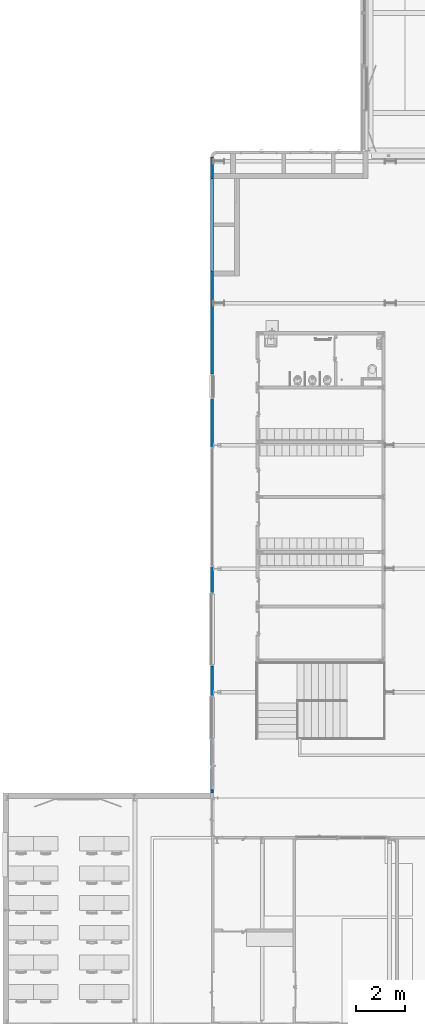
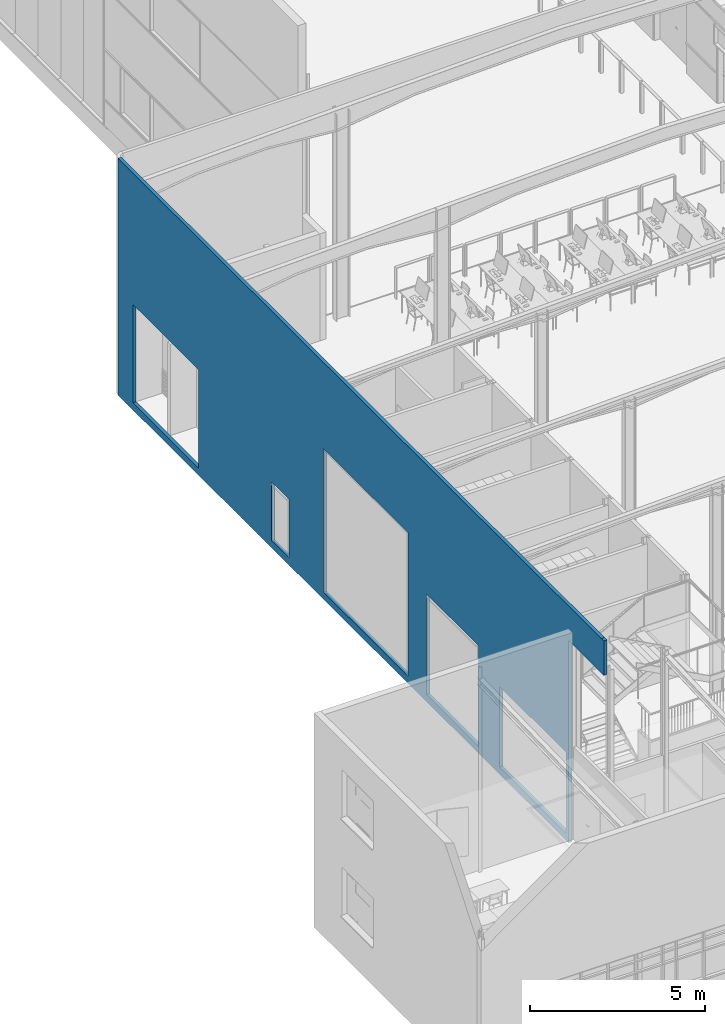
# One storey, part 90 of 137: 1 wall, 1 opening.
"""IFC2X3 building model written with IfcOpenShell, lengths in centimetres."""

import ifcopenshell
import ifcopenshell.guid

model = None  # the IFC model being written
_history = None  # IfcOwnerHistory: only IFC2X3 demands one
_inside = {}  # id of a spatial element -> (the spatial element, [elements in it])
_under = {}  # id of a project, library or spatial element -> (it, [spatial elements below it])
_declared = {}  # id of a project -> (the project, [libraries it declares])
_typed = {}  # id of a type object -> (the type object, [elements of that type])
_made_of = {}  # id of a material, layer set ... -> (it, [elements and type objects made of it])


def new_model(schema):
    """Start an empty IFC model of exactly this schema.

    Asked for "IFC4X3", IfcOpenShell would pick the latest addendum, in which some entities
    have other attributes; the version numbers below select the first issue.
    IFC2X3 requires an IfcOwnerHistory on every rooted entity: one is made here for all.
    """
    global model, _history
    if schema == "IFC4X3":
        model = ifcopenshell.file(schema_version=(4, 3, 0, 0))
    else:
        model = ifcopenshell.file(schema=schema)
    _inside.clear()
    _under.clear()
    _declared.clear()
    _typed.clear()
    _made_of.clear()
    _history = None
    if model.schema == "IFC2X3":
        org = make("IfcOrganization", Name="unknown")
        user = make(
            "IfcPersonAndOrganization",
            ThePerson=make("IfcPerson", FamilyName="unknown"),
            TheOrganization=org,
        )
        app = make(
            "IfcApplication",
            ApplicationDeveloper=org,
            Version="unknown",
            ApplicationFullName="unknown",
            ApplicationIdentifier="unknown",
        )
        _history = make(
            "IfcOwnerHistory",
            OwningUser=user,
            OwningApplication=app,
            ChangeAction="ADDED",
            CreationDate=0,
        )
    return model


def make(cls, **values):
    """One entity of the class cls with the attributes given. An attribute that is None is left unset."""
    return model.create_entity(
        cls, **{name: value for name, value in values.items() if value is not None}
    )


def entity(cls, *values):
    """Any entity or typed value of the class cls, its attributes in the order of the schema. None: left unset."""
    e = model.create_entity(cls)
    for i, value in enumerate(values):
        if value is not None:
            e[i] = value
    return e


def rooted(cls, **values):
    """An entity with a GlobalId (a new one), such as an element, a storey or a relation."""
    return make(cls, GlobalId=ifcopenshell.guid.new(), OwnerHistory=_history, **values)


def si_unit(unit_type, name, prefix=None):
    """IfcSIUnit, for example si_unit("LENGTHUNIT", "METRE", prefix="MILLI")."""
    return make("IfcSIUnit", UnitType=unit_type, Prefix=prefix, Name=name)


def converted_unit(unit_type, name, factor, base, dimensions=None, offset=None):
    """IfcConversionBasedUnit, such as the inch: factor (a typed value) times the base unit."""
    return make(
        "IfcConversionBasedUnit"
        if offset is None
        else "IfcConversionBasedUnitWithOffset",
        ConversionOffset=offset,
        Dimensions=None
        if dimensions is None
        else entity("IfcDimensionalExponents", *dimensions),
        UnitType=unit_type,
        Name=name,
        ConversionFactor=make(
            "IfcMeasureWithUnit", ValueComponent=factor, UnitComponent=base
        ),
    )


def derived_unit(unit_type, elements):
    """IfcDerivedUnit: a product of units, each with its exponent."""
    return make(
        "IfcDerivedUnit",
        Elements=[
            make("IfcDerivedUnitElement", Unit=unit, Exponent=power)
            for unit, power in elements
        ],
        UnitType=unit_type,
    )


def assignment(units):
    """IfcUnitAssignment: the units of a project."""
    return None if units is None else make("IfcUnitAssignment", Units=units)


def point(xyz):
    """IfcCartesianPoint."""
    return None if xyz is None else make("IfcCartesianPoint", Coordinates=xyz)


def direction(xyz):
    """IfcDirection."""
    return None if xyz is None else make("IfcDirection", DirectionRatios=xyz)


def frame(location, z_axis=None, x_axis=None):
    """IfcAxis2Placement3D, a coordinate frame: its origin and axes. An axis left out is left unset."""
    return make(
        "IfcAxis2Placement3D",
        Location=point(location),
        Axis=direction(z_axis),
        RefDirection=direction(x_axis),
    )


def frame_2d(location, x_axis=None):
    """IfcAxis2Placement2D, a coordinate frame in the plane: its origin and x axis."""
    return make(
        "IfcAxis2Placement2D", Location=point(location), RefDirection=direction(x_axis)
    )


def origin():
    """The frame at (0, 0, 0) with its axes left unset."""
    return frame((0.0, 0.0, 0.0))


def place(relative_to, where):
    """IfcLocalPlacement: puts the frame where relative to a parent placement (None: the world)."""
    return make(
        "IfcLocalPlacement", PlacementRelTo=relative_to, RelativePlacement=where
    )


def context(
    kind, dimensions, precision=None, world=None, true_north=None, identifier=None
):
    """IfcGeometricRepresentationContext, for example the 3D "Model" context."""
    return make(
        "IfcGeometricRepresentationContext",
        ContextIdentifier=identifier,
        ContextType=kind,
        CoordinateSpaceDimension=dimensions,
        Precision=precision,
        WorldCoordinateSystem=world,
        TrueNorth=true_north,
    )


def subcontext(parent, identifier, kind, view, scale=None):
    """IfcGeometricRepresentationSubContext, for example "Body" below "Model"."""
    return make(
        "IfcGeometricRepresentationSubContext",
        ContextIdentifier=identifier,
        ContextType=kind,
        ParentContext=parent,
        TargetScale=scale,
        TargetView=view,
    )


def project(units=None, contexts=None):
    """IfcProject with its units and contexts."""
    return rooted(
        "IfcProject",
        Name="project",
        RepresentationContexts=contexts,
        UnitsInContext=assignment(units),
    )


def spatial(cls, under=None, at=None, **own):
    """A site, building, storey or space (cls), placed at a placement, below another one or the project."""
    s = rooted(cls, ObjectPlacement=at, **own)
    if under is not None:
        _under.setdefault(under.id(), (under, []))[1].append(s)
    return s


def profile(cls, at=None, kind="AREA", **sizes):
    """A parametric profile (cls). Its sizes go by their IFC names, for example OverallWidth=200.0."""
    return make(cls, ProfileType=kind, Position=at, **sizes)


def rectangle(**sizes):
    """IfcRectangleProfileDef."""
    return profile("IfcRectangleProfileDef", **sizes)


def extrude(swept, where, along, depth):
    """IfcExtrudedAreaSolid: the profile swept, set in the frame where, extruded along a direction by depth."""
    return make(
        "IfcExtrudedAreaSolid",
        SweptArea=swept,
        Position=where,
        ExtrudedDirection=direction(along),
        Depth=depth,
    )


def faces_of(points, faces, orient=None, outer=None):
    """IfcFace entities. A face is a list of loops; a loop is a list of indices into points, from 0.

    orient and outer hold one flag for each loop. By default every Orientation is true, the
    first loop of a face is its IfcFaceOuterBound and the others are IfcFaceBound.
    """
    made = []
    for i, loops in enumerate(faces):
        bounds = []
        for j, loop in enumerate(loops):
            is_outer = j == 0 if outer is None else outer[i][j]
            bounds.append(
                make(
                    "IfcFaceOuterBound" if is_outer else "IfcFaceBound",
                    Bound=make("IfcPolyLoop", Polygon=[points[k] for k in loop]),
                    Orientation=True if orient is None else orient[i][j],
                )
            )
        made.append(make("IfcFace", Bounds=bounds))
    return made


def faceted_brep(points, faces, orient=None, outer=None, voids=None):
    """IfcFacetedBrep: a solid bounded by flat faces; with voids (closed shells), ...WithVoids."""
    shared = [point(p) for p in points]
    hull = make("IfcClosedShell", CfsFaces=faces_of(shared, faces, orient, outer))
    if voids is None:
        return make("IfcFacetedBrep", Outer=hull)
    return make(
        "IfcFacetedBrepWithVoids",
        Outer=hull,
        Voids=[
            make(cls, CfsFaces=faces_of(shared, fs, o, b)) for cls, fs, o, b in voids
        ],
    )


def shape(context_of_items, identifier, shape_type, items):
    """IfcShapeRepresentation: the items that make up one representation, for example the "Body"."""
    return make(
        "IfcShapeRepresentation",
        ContextOfItems=context_of_items,
        RepresentationIdentifier=identifier,
        RepresentationType=shape_type,
        Items=items,
    )


def material(Name=None, Category=None):
    """IfcMaterial."""
    return make("IfcMaterial", Name=Name, Category=Category)


def material_list(materials):
    """IfcMaterialList."""
    return make("IfcMaterialList", Materials=materials)


def made_of(thing, what):
    """Note that an element or type object is made of a material, layer set ...; save() writes the relation."""
    if what is not None:
        _made_of.setdefault(what.id(), (what, []))[1].append(thing)
    return thing


def type_object(cls, material=None, **own):
    """A type object (cls), such as IfcWallType, which elements share."""
    return made_of(rooted(cls, **own), material)


def element(
    cls,
    number,
    at=None,
    inside=None,
    cuts=None,
    type_object=None,
    material=None,
    context=None,
    identifier="Body",
    shape_type=None,
    held_by="IfcProductDefinitionShape",
    body=None,
    shapes=None,
    **own,
):
    """One element of the class cls, such as IfcWall. Its Tag is "e" and its number.

    at: its placement. inside: the storey or other place that contains it. cuts: it is an
    opening in that element (IfcRelVoidsElement). A single representation is given by context,
    identifier, shape_type and body (its items); several are given by shapes. held_by: the class
    of the entity that holds the representations. save() writes the other relations.
    """
    e = rooted(cls, Tag="e%d" % number, ObjectPlacement=at, **own)
    if body is not None:
        shapes = [shape(context, identifier, shape_type, body)]
    if shapes is not None:
        e.Representation = make(held_by, Representations=shapes)
    if inside is not None:
        _inside.setdefault(inside.id(), (inside, []))[1].append(e)
    if cuts is not None:
        rooted(
            "IfcRelVoidsElement", RelatingBuildingElement=cuts, RelatedOpeningElement=e
        )
    if type_object is not None:
        _typed.setdefault(type_object.id(), (type_object, []))[1].append(e)
    return made_of(e, material)


def aggregate(whole, parts):
    """IfcRelAggregates: a whole, such as a stair, and the parts it consists of."""
    return rooted("IfcRelAggregates", RelatingObject=whole, RelatedObjects=parts)


def save(model, path):
    """Write the relations noted so far, then the file.

    IfcRelAggregates (storeys below a building ...), IfcRelContainedInSpatialStructure (elements
    in a storey), IfcRelDefinesByType, IfcRelAssociatesMaterial and IfcRelDeclares: one each for
    every whole, place, type object, material and project.
    """
    for whole, parts in _under.values():
        aggregate(whole, parts)
    for where, things in _inside.values():
        rooted(
            "IfcRelContainedInSpatialStructure",
            RelatedElements=things,
            RelatingStructure=where,
        )
    for kind, things in _typed.values():
        rooted("IfcRelDefinesByType", RelatedObjects=things, RelatingType=kind)
    for what, things in _made_of.values():
        rooted("IfcRelAssociatesMaterial", RelatedObjects=things, RelatingMaterial=what)
    for by, libraries in _declared.values():
        rooted("IfcRelDeclares", RelatingContext=by, RelatedDefinitions=libraries)
    model.write(path)


model = new_model("IFC2X3")

# Units and contexts
model_context = context("Model", 3, precision=0.001, world=origin(), true_north=direction((6.12303176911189e-17, 1.0)))
body_context = subcontext(model_context, "Body", "Model", "MODEL_VIEW")
ifc_project = project(units=[si_unit("LENGTHUNIT", "METRE", prefix="CENTI"), si_unit("AREAUNIT", "SQUARE_METRE"), si_unit("VOLUMEUNIT", "CUBIC_METRE"), converted_unit("PLANEANGLEUNIT", "DEGREE", entity("IfcRatioMeasure", 0.0174532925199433), si_unit("PLANEANGLEUNIT", "RADIAN"), dimensions=[0, 0, 0, 0, 0, 0, 0]), si_unit("MASSUNIT", "GRAM", prefix="KILO"), si_unit("TIMEUNIT", "SECOND"), si_unit("FREQUENCYUNIT", "HERTZ"), si_unit("THERMODYNAMICTEMPERATUREUNIT", "DEGREE_CELSIUS"), derived_unit("THERMALTRANSMITTANCEUNIT", [(si_unit("MASSUNIT", "GRAM", prefix="KILO"), 1), (si_unit("THERMODYNAMICTEMPERATUREUNIT", "KELVIN"), -1), (si_unit("TIMEUNIT", "SECOND"), -3)]), derived_unit("VOLUMETRICFLOWRATEUNIT", [(si_unit("LENGTHUNIT", "METRE"), 3), (si_unit("TIMEUNIT", "SECOND"), -1)]), si_unit("ELECTRICCURRENTUNIT", "AMPERE"), si_unit("ELECTRICVOLTAGEUNIT", "VOLT"), si_unit("POWERUNIT", "WATT"), si_unit("FORCEUNIT", "NEWTON", prefix="KILO"), si_unit("ILLUMINANCEUNIT", "LUX"), si_unit("LUMINOUSFLUXUNIT", "LUMEN"), si_unit("LUMINOUSINTENSITYUNIT", "CANDELA"), derived_unit("USERDEFINED", [(si_unit("MASSUNIT", "GRAM", prefix="KILO"), -1), (si_unit("LENGTHUNIT", "METRE"), -2), (si_unit("TIMEUNIT", "SECOND"), 3), (si_unit("LUMINOUSFLUXUNIT", "LUMEN"), 1)]), derived_unit("LINEARVELOCITYUNIT", [(si_unit("LENGTHUNIT", "METRE"), 1), (si_unit("TIMEUNIT", "SECOND"), -1)]), si_unit("PRESSUREUNIT", "PASCAL"), derived_unit("USERDEFINED", [(si_unit("LENGTHUNIT", "METRE"), -2), (si_unit("MASSUNIT", "GRAM", prefix="KILO"), 1), (si_unit("TIMEUNIT", "SECOND"), -2)])], contexts=[model_context])

# Site, building, storey
site_placement = place(None, frame((8.62739174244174, -249.285249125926, 0.0)))
site = spatial("IfcSite", under=ifc_project, at=site_placement, Name="Default", CompositionType="ELEMENT")
building_placement = place(site_placement, origin())
building = spatial("IfcBuilding", under=site, at=building_placement, CompositionType="ELEMENT")
storey_placement = place(building_placement, origin())
storey = spatial("IfcBuildingStorey", under=building, at=storey_placement, Name="RDC", CompositionType="ELEMENT", Elevation=-8.82465566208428e-11)

# Wall, opening
ifc_material_1 = material(Name="Tôle/Doublage")
ifc_material_2 = material(Name="Laine minérale")
ifc_material_list = material_list([ifc_material_1, ifc_material_2, ifc_material_1])
wall_type = type_object("IfcWallType", Name="Mur de base:MET 4 + ISO 6 + MET 2", PredefinedType="NOTDEFINED")
wall_placement = place(storey_placement, frame((845.404827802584, 3529.01488015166, -25.0), z_axis=(0.0, 0.0, 1.0), x_axis=(0.0, -1.0, 0.0)))
wall = element("IfcWall", 1, at=wall_placement, inside=storey, type_object=wall_type, material=ifc_material_list, Name="Mur de base:MET 4 + ISO 6 + MET 2", ObjectType="Mur de base:MET 4 + ISO 6 + MET 2", context=body_context, shape_type="Brep", body=[
    faceted_brep([(0.0, -5.4999999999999, 0.0), (2576.01488015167, -5.49999999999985, 0.0), (2576.01488015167, -5.49999999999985, 706.0), (2598.01488015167, -5.49999999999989, 706.0), (2777.03467208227, -5.49999999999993, 706.0), (2777.03467208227, -5.49999999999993, 721.003661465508), (2777.03467208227, -5.49999999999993, 825.900000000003), (2762.94232497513, -5.49999999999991, 825.900000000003), (2762.94232497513, -5.49999999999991, 821.100000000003), (2764.34232497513, -5.49999999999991, 821.100000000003), (2764.34232497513, -5.49999999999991, 821.0), (2762.84232497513, -5.49999999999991, 821.0), (2762.84232497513, -5.49999999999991, 826.0), (0.0, -5.4999999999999, 826.0), (2182.03467208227, -5.49999999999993, 305.0), (2360.03467208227, -5.49999999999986, 305.0), (2360.03467208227, -5.49999999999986, 307.0), (2562.03467208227, -5.49999999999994, 307.0), (2562.03467208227, -5.49999999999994, 25.0), (2182.03467208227, -5.49999999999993, 25.0), (1764.53467208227, -5.49999999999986, 25.0), (1764.53467208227, -5.49999999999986, 375.0), (2060.53467208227, -5.49999999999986, 375.0), (2060.53467208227, -5.49999999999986, 25.0), (1175.53467208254, -5.49999999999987, 25.0), (1175.53467208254, -5.49999999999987, 525.0), (1658.53467208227, -5.49999999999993, 525.0), (1658.53467208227, -5.49999999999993, 25.0), (878.534672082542, -5.49999999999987, 25.0), (878.534672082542, -5.49999999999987, 229.0), (977.534672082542, -5.49999999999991, 229.0), (977.534672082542, -5.49999999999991, 25.0), (460.998403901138, -5.49999999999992, 368.145727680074), (460.998403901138, -5.49999999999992, 24.8154741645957), (85.7637207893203, -5.49999999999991, 24.8154741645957), (85.7637207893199, -5.49999999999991, 368.145727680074), (2576.01488015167, 5.50000000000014, 0.0), (0.074614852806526, 5.5000000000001, 0.0), (0.074614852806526, 5.5000000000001, 826.0), (2762.84232497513, 5.50000000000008, 826.0), (2762.84232497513, 5.50000000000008, 821.0), (2764.34232497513, 5.50000000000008, 821.0), (2764.34232497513, 5.50000000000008, 821.100000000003), (2762.94232497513, 5.50000000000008, 821.100000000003), (2762.94232497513, 5.50000000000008, 825.900000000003), (2777.03467208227, 5.50000000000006, 825.900000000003), (2777.03467208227, 5.50000000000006, 706.0), (2598.01488015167, 5.5000000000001, 706.0), (2576.01488015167, 5.50000000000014, 706.0), (2360.03467208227, 5.50000000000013, 305.0), (2182.03467208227, 5.50000000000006, 305.0), (2182.03467208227, 5.50000000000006, 25.0), (2562.03467208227, 5.50000000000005, 25.0), (2562.03467208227, 5.50000000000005, 307.0), (2360.03467208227, 5.50000000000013, 307.0), (1764.53467208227, 5.50000000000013, 375.0), (1764.53467208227, 5.50000000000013, 25.0), (2060.53467208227, 5.50000000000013, 25.0), (2060.53467208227, 5.50000000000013, 375.0), (1175.53467208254, 5.50000000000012, 525.0), (1175.53467208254, 5.50000000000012, 25.0), (1658.53467208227, 5.50000000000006, 25.0), (1658.53467208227, 5.50000000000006, 525.0), (878.534672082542, 5.50000000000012, 229.0), (878.534672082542, 5.50000000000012, 25.0), (977.534672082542, 5.50000000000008, 25.0), (977.534672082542, 5.50000000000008, 229.0), (460.998403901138, 5.50000000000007, 24.8154741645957), (460.998403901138, 5.50000000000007, 368.145727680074), (85.7637207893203, 5.50000000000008, 368.145727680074), (85.7637207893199, 5.50000000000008, 24.8154741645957)], [[[0, 1, 2, 3, 4, 5, 6, 7, 8, 9, 10, 11, 12, 13], [14, 15, 16, 17, 18, 19], [20, 21, 22, 23], [24, 25, 26, 27], [28, 29, 30, 31], [32, 33, 34, 35]], [[36, 37, 38, 39, 40, 41, 42, 43, 44, 45, 46, 47, 48], [49, 50, 51, 52, 53, 54], [55, 56, 57, 58], [59, 60, 61, 62], [63, 64, 65, 66], [67, 68, 69, 70]], [[1, 0, 37, 36]], [[38, 13, 12, 39]], [[4, 3, 2, 48, 47, 46]], [[4, 46, 45, 6, 5]], [[14, 50, 49, 15]], [[50, 14, 19, 51]], [[54, 16, 15, 49]], [[16, 54, 53, 17]], [[17, 53, 52, 18]], [[51, 19, 18, 52]], [[1, 36, 48, 2]], [[0, 13, 38, 37]], [[20, 56, 55, 21]], [[21, 55, 58, 22]], [[22, 58, 57, 23]], [[56, 20, 23, 57]], [[24, 60, 59, 25]], [[25, 59, 62, 26]], [[26, 62, 61, 27]], [[60, 24, 27, 61]], [[28, 64, 63, 29]], [[29, 63, 66, 30]], [[30, 66, 65, 31]], [[64, 28, 31, 65]], [[32, 68, 67, 33]], [[33, 67, 70, 34]], [[34, 70, 69, 35]], [[68, 32, 35, 69]], [[40, 11, 10, 41]], [[11, 40, 39, 12]], [[41, 10, 9, 42]], [[42, 9, 8, 43]], [[43, 8, 7, 44]], [[44, 7, 6, 45]]]),
])
opening_placement = place(wall_placement, frame((2562.03467208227, 5.50000000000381, 25.0)))
element("IfcOpeningElement", 2, at=opening_placement, cuts=wall, Name="Schueco ADS 75 HD HI double-leaf outward-opening double glass 32mm:Schueco ADS 75 HD HI double-leaf outward-opening double glass 32mm:1", ObjectType="Opening", context=body_context, shape_type="SweptSolid", body=[
    extrude(rectangle(XDim=282.0, YDim=202.0, at=frame_2d((141.0, 101.0), x_axis=(1.0, 0.0))), frame((0.0, 0.0, 0.0), z_axis=(0.0, -1.0, 0.0), x_axis=(0.0, 0.0, 1.0)), (0.0, 0.0, 1.0), 11.0),
])

save(model, "model.ifc")
